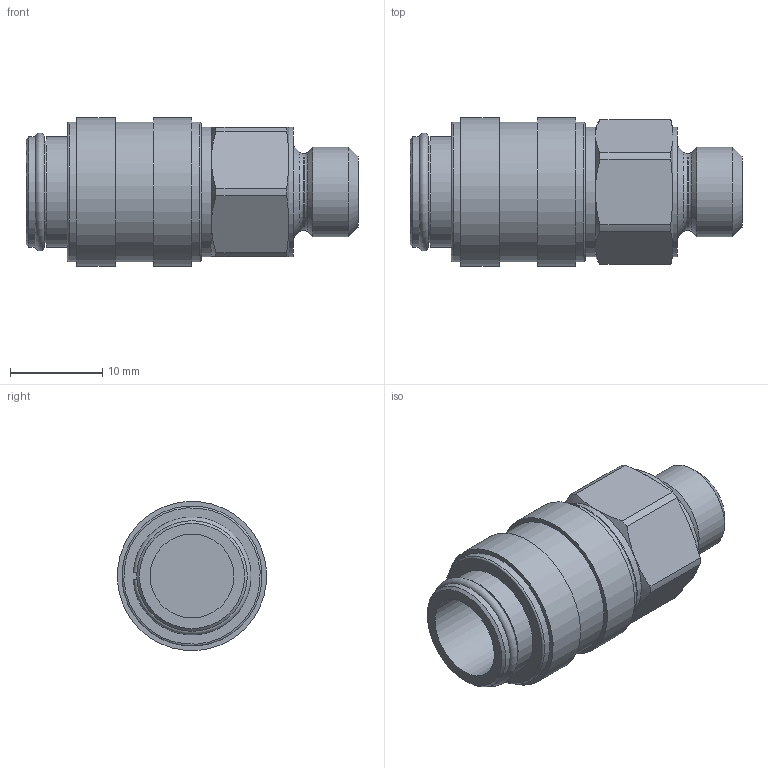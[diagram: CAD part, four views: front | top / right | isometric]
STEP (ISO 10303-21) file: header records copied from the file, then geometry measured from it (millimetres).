
FILE_DESCRIPTION(/* description */ (''),/* implementation_level */ '2;1');
FILE_NAME(/* name */ 'H:\cad\neutral\3d\72556\kdg_18_nw5_es.stp',/* time_stamp */ '2017-10-20T14:32:43+02:00',/* author */ ('Hamoud'),/* organization */ (''),/* preprocessor_version */ 'ST-DEVELOPER v15.6',/* originating_system */ 'Autodesk Inventor LT ',/* authorisation */ '');
FILE_SCHEMA (('AUTOMOTIVE_DESIGN { 1 0 10303 214 3 1 1 }'));
Length unit declared in the file: millimetre
Products named in the file (1): kdg_18_nw5_es
Bounding box: 36 x 16.15 x 16.15 mm (x, y, z)
Volume: 4281.8 mm3; surface area: 2729.7 mm2
Topology: 1 solids, 1 shells, 63 faces, 125 edges, 76 vertices
Faces by surface type: plane 21, cylinder 20, cone 16, torus 6
Full cylindrical faces by diameter (mm): 5 x1, 8.3 x1, 9.1 x1, 9.728 x1, 11 x1, 12 x2, 14 x2, 15.2 x3, 16.2 x2
Entity records: 1578 total; most frequent: CARTESIAN_POINT 351, DIRECTION 262, ORIENTED_EDGE 206, AXIS2_PLACEMENT_3D 124, EDGE_CURVE 102, EDGE_LOOP 98, VERTEX_POINT 75, FACE_OUTER_BOUND 63
